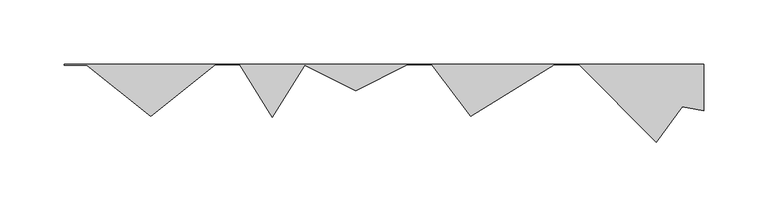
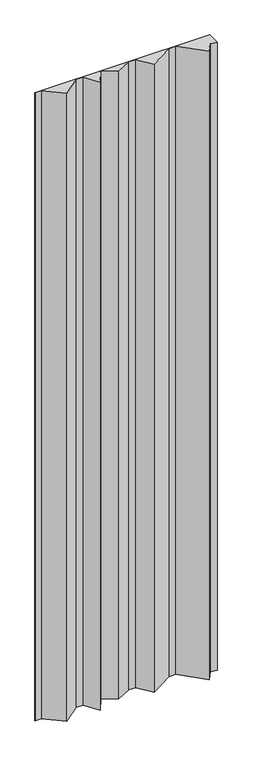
"""IFC4 building model written with IfcOpenShell, lengths in millimetres: plate geometry, ATELIERS 3S_GLACE JORASSES 900_VERTICAL : AZURO."""

from ifc_helpers import new_model, si_unit, origin, origin_with_axes, place, context, project, spatial, polyline, outline, extrude, source, transform, mapped, element, save


def plate_696d8cb5(model_context):
    return source(origin(), model_context, "Body", "SweptSolid", [
        extrude(outline(polyline([(-249.9999998, -0.8), (-249.9999998, 0.0), (249.9999998, 0.0), (249.9999998, -36.4915106), (233.1230984, -33.3290095), (212.8856384, -61.1509172), (152.4847212, -0.75), (133.0076631, -0.75), (67.6058388, -40.9972765), (37.4203814, -0.75), (17.9724324, -0.75), (-22.2046186, -20.8385255), (-61.9300606, -0.9758045), (-87.2046186, -41.4150972), (-112.6203043, -0.75), (-131.9415328, -0.75), (-182.2046186, -40.9604686), (-232.4052044, -0.8), (-249.9999998, -0.8)])), origin_with_axes(), (0.0, 0.0, 1.0), 1900.0),
    ])


if __name__ == "__main__":
    model = new_model("IFC4")
    model_context = context("Model", 3, world=origin())
    ifc_project = project(units=[si_unit("LENGTHUNIT", "METRE", prefix="MILLI")], contexts=[model_context])
    site = spatial("IfcSite", under=ifc_project)
    building = spatial("IfcBuilding", under=site)
    placement = place(None, origin())
    plate_shape = plate_696d8cb5(model_context)
    element("IfcPlate", 1, ObjectType="ATELIERS 3S_GLACE JORASSES 900_VERTICAL : AZURO", at=placement, inside=building, context=model_context, shape_type="MappedRepresentation", body=[
        mapped(plate_shape, transform((0.0, 0.0, 0.0), x_axis=(1.0, 0.0, 0.0), y_axis=(0.0, 1.0, 0.0), z_axis=(0.0, 0.0, 1.0))),
    ])
    save(model, "model.ifc")
